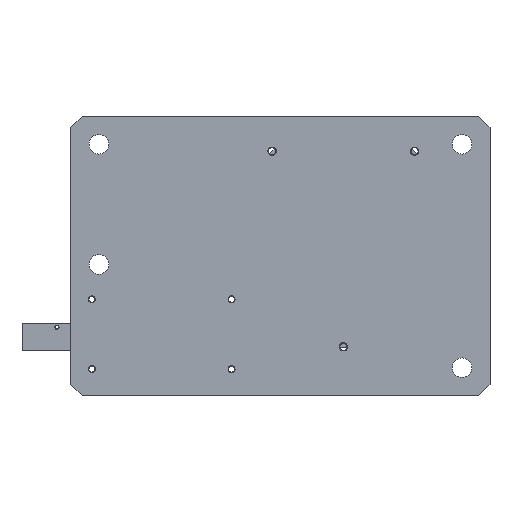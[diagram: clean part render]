
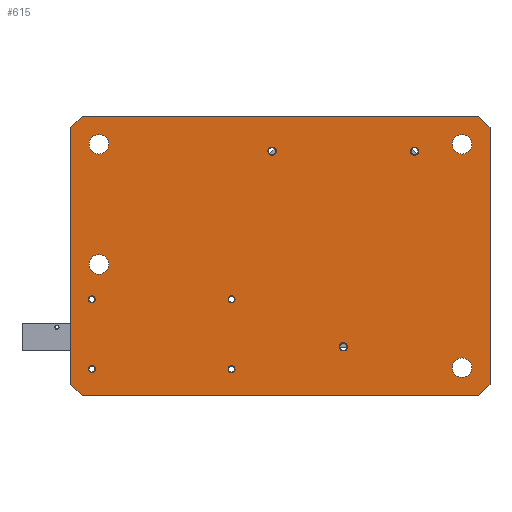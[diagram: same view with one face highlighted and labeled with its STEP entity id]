
A CAD part, front view. The second image highlights one B-rep face of the part: STEP entity #615.
In plain terms, the highlighted planar face has unit normal (0, -1, 0).
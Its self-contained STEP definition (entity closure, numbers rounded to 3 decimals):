
#2=CARTESIAN_POINT('',(-35.,0.,-81.));
#3=DIRECTION('',(0.,1.,0.));
#4=DIRECTION('',(1.,0.,0.));
#5=AXIS2_PLACEMENT_3D('',#2,#3,#4);
#7=CARTESIAN_POINT('',(-35.,0.,-81.));
#8=DIRECTION('',(0.,1.,0.));
#9=DIRECTION('',(-1.,0.,0.));
#10=AXIS2_PLACEMENT_3D('',#7,#8,#9);
#12=CARTESIAN_POINT('',(-135.,0.,-81.));
#13=DIRECTION('',(0.,1.,0.));
#14=DIRECTION('',(1.,0.,0.));
#15=AXIS2_PLACEMENT_3D('',#12,#13,#14);
#17=CARTESIAN_POINT('',(-135.,0.,-81.));
#18=DIRECTION('',(0.,1.,0.));
#19=DIRECTION('',(-1.,0.,0.));
#20=AXIS2_PLACEMENT_3D('',#17,#18,#19);
#22=CARTESIAN_POINT('',(-35.,0.,-31.));
#23=DIRECTION('',(0.,1.,0.));
#24=DIRECTION('',(1.,0.,0.));
#25=AXIS2_PLACEMENT_3D('',#22,#23,#24);
#27=CARTESIAN_POINT('',(-35.,0.,-31.));
#28=DIRECTION('',(0.,1.,0.));
#29=DIRECTION('',(-1.,0.,0.));
#30=AXIS2_PLACEMENT_3D('',#27,#28,#29);
#32=CARTESIAN_POINT('',(-135.,0.,-31.));
#33=DIRECTION('',(0.,1.,0.));
#34=DIRECTION('',(1.,0.,0.));
#35=AXIS2_PLACEMENT_3D('',#32,#33,#34);
#37=CARTESIAN_POINT('',(-135.,0.,-31.));
#38=DIRECTION('',(0.,1.,0.));
#39=DIRECTION('',(-1.,0.,0.));
#40=AXIS2_PLACEMENT_3D('',#37,#38,#39);
#42=CARTESIAN_POINT('',(45.,0.,-65.));
#43=DIRECTION('',(0.,1.,0.));
#44=DIRECTION('',(1.,0.,0.));
#45=AXIS2_PLACEMENT_3D('',#42,#43,#44);
#47=CARTESIAN_POINT('',(45.,0.,-65.));
#48=DIRECTION('',(0.,1.,0.));
#49=DIRECTION('',(-1.,0.,0.));
#50=AXIS2_PLACEMENT_3D('',#47,#48,#49);
#52=CARTESIAN_POINT('',(-6.,0.,75.));
#53=DIRECTION('',(0.,1.,0.));
#54=DIRECTION('',(1.,0.,0.));
#55=AXIS2_PLACEMENT_3D('',#52,#53,#54);
#57=CARTESIAN_POINT('',(-6.,0.,75.));
#58=DIRECTION('',(0.,1.,0.));
#59=DIRECTION('',(-1.,0.,0.));
#60=AXIS2_PLACEMENT_3D('',#57,#58,#59);
#62=CARTESIAN_POINT('',(96.,0.,75.));
#63=DIRECTION('',(0.,1.,0.));
#64=DIRECTION('',(1.,0.,0.));
#65=AXIS2_PLACEMENT_3D('',#62,#63,#64);
#67=CARTESIAN_POINT('',(96.,0.,75.));
#68=DIRECTION('',(0.,1.,0.));
#69=DIRECTION('',(-1.,0.,0.));
#70=AXIS2_PLACEMENT_3D('',#67,#68,#69);
#72=CARTESIAN_POINT('',(-130.,0.,80.));
#73=DIRECTION('',(0.,1.,0.));
#74=DIRECTION('',(1.,0.,0.));
#75=AXIS2_PLACEMENT_3D('',#72,#73,#74);
#77=CARTESIAN_POINT('',(-130.,0.,80.));
#78=DIRECTION('',(0.,1.,0.));
#79=DIRECTION('',(-1.,0.,0.));
#80=AXIS2_PLACEMENT_3D('',#77,#78,#79);
#82=CARTESIAN_POINT('',(-130.,0.,-6.));
#83=DIRECTION('',(0.,1.,0.));
#84=DIRECTION('',(1.,0.,0.));
#85=AXIS2_PLACEMENT_3D('',#82,#83,#84);
#87=CARTESIAN_POINT('',(-130.,0.,-6.));
#88=DIRECTION('',(0.,1.,0.));
#89=DIRECTION('',(-1.,0.,0.));
#90=AXIS2_PLACEMENT_3D('',#87,#88,#89);
#92=CARTESIAN_POINT('',(130.,0.,-80.));
#93=DIRECTION('',(0.,1.,0.));
#94=DIRECTION('',(1.,0.,0.));
#95=AXIS2_PLACEMENT_3D('',#92,#93,#94);
#97=CARTESIAN_POINT('',(130.,0.,-80.));
#98=DIRECTION('',(0.,1.,0.));
#99=DIRECTION('',(-1.,0.,0.));
#100=AXIS2_PLACEMENT_3D('',#97,#98,#99);
#102=CARTESIAN_POINT('',(130.,0.,80.));
#103=DIRECTION('',(0.,1.,0.));
#104=DIRECTION('',(1.,0.,0.));
#105=AXIS2_PLACEMENT_3D('',#102,#103,#104);
#107=CARTESIAN_POINT('',(130.,0.,80.));
#108=DIRECTION('',(0.,1.,0.));
#109=DIRECTION('',(-1.,0.,0.));
#110=AXIS2_PLACEMENT_3D('',#107,#108,#109);
#112=DIRECTION('',(-0.707,0.,-0.707));
#113=VECTOR('',#112,11.314);
#114=CARTESIAN_POINT('',(-142.,0.,100.));
#115=LINE('',#114,#113);
#116=DIRECTION('',(1.,0.,0.));
#117=VECTOR('',#116,284.);
#118=CARTESIAN_POINT('',(-142.,0.,100.));
#119=LINE('',#118,#117);
#120=DIRECTION('',(-0.707,0.,0.707));
#121=VECTOR('',#120,11.314);
#122=CARTESIAN_POINT('',(150.,0.,92.));
#123=LINE('',#122,#121);
#124=DIRECTION('',(0.,0.,-1.));
#125=VECTOR('',#124,184.);
#126=CARTESIAN_POINT('',(150.,0.,92.));
#127=LINE('',#126,#125);
#128=DIRECTION('',(0.707,0.,0.707));
#129=VECTOR('',#128,11.314);
#130=CARTESIAN_POINT('',(142.,0.,-100.));
#131=LINE('',#130,#129);
#132=DIRECTION('',(-1.,0.,0.));
#133=VECTOR('',#132,284.);
#134=CARTESIAN_POINT('',(142.,0.,-100.));
#135=LINE('',#134,#133);
#136=DIRECTION('',(0.707,0.,-0.707));
#137=VECTOR('',#136,11.314);
#138=CARTESIAN_POINT('',(-150.,0.,-92.));
#139=LINE('',#138,#137);
#140=DIRECTION('',(0.,0.,1.));
#141=VECTOR('',#140,184.);
#142=CARTESIAN_POINT('',(-150.,0.,-92.));
#143=LINE('',#142,#141);
#406=CARTESIAN_POINT('',(-142.,0.,100.));
#407=CARTESIAN_POINT('',(-150.,0.,92.));
#408=VERTEX_POINT('',#406);
#409=VERTEX_POINT('',#407);
#414=CARTESIAN_POINT('',(150.,0.,92.));
#415=CARTESIAN_POINT('',(142.,0.,100.));
#416=VERTEX_POINT('',#414);
#417=VERTEX_POINT('',#415);
#422=CARTESIAN_POINT('',(142.,0.,-100.));
#423=CARTESIAN_POINT('',(150.,0.,-92.));
#424=VERTEX_POINT('',#422);
#425=VERTEX_POINT('',#423);
#430=CARTESIAN_POINT('',(-150.,0.,-92.));
#431=CARTESIAN_POINT('',(-142.,0.,-100.));
#432=VERTEX_POINT('',#430);
#433=VERTEX_POINT('',#431);
#438=CARTESIAN_POINT('',(-32.85,0.,-81.));
#439=CARTESIAN_POINT('',(-37.15,0.,-81.));
#440=VERTEX_POINT('',#438);
#441=VERTEX_POINT('',#439);
#442=CARTESIAN_POINT('',(-132.85,0.,-81.));
#443=CARTESIAN_POINT('',(-137.15,0.,-81.));
#444=VERTEX_POINT('',#442);
#445=VERTEX_POINT('',#443);
#446=CARTESIAN_POINT('',(-32.85,0.,-31.));
#447=CARTESIAN_POINT('',(-37.15,0.,-31.));
#448=VERTEX_POINT('',#446);
#449=VERTEX_POINT('',#447);
#450=CARTESIAN_POINT('',(-132.85,0.,-31.));
#451=CARTESIAN_POINT('',(-137.15,0.,-31.));
#452=VERTEX_POINT('',#450);
#453=VERTEX_POINT('',#451);
#470=CARTESIAN_POINT('',(47.55,0.,-65.));
#471=CARTESIAN_POINT('',(42.45,0.,-65.));
#472=VERTEX_POINT('',#470);
#473=VERTEX_POINT('',#471);
#474=CARTESIAN_POINT('',(-3.45,0.,75.));
#475=CARTESIAN_POINT('',(-8.55,0.,75.));
#476=VERTEX_POINT('',#474);
#477=VERTEX_POINT('',#475);
#478=CARTESIAN_POINT('',(98.55,0.,75.));
#479=CARTESIAN_POINT('',(93.45,0.,75.));
#480=VERTEX_POINT('',#478);
#481=VERTEX_POINT('',#479);
#494=CARTESIAN_POINT('',(-123.,0.,80.));
#495=CARTESIAN_POINT('',(-137.,0.,80.));
#496=VERTEX_POINT('',#494);
#497=VERTEX_POINT('',#495);
#498=CARTESIAN_POINT('',(-123.,0.,-6.));
#499=CARTESIAN_POINT('',(-137.,0.,-6.));
#500=VERTEX_POINT('',#498);
#501=VERTEX_POINT('',#499);
#502=CARTESIAN_POINT('',(137.,0.,-80.));
#503=CARTESIAN_POINT('',(123.,0.,-80.));
#504=VERTEX_POINT('',#502);
#505=VERTEX_POINT('',#503);
#506=CARTESIAN_POINT('',(137.,0.,80.));
#507=CARTESIAN_POINT('',(123.,0.,80.));
#508=VERTEX_POINT('',#506);
#509=VERTEX_POINT('',#507);
#526=CARTESIAN_POINT('',(0.,0.,0.));
#527=DIRECTION('',(0.,1.,0.));
#528=DIRECTION('',(1.,0.,0.));
#529=AXIS2_PLACEMENT_3D('',#526,#527,#528);
#530=PLANE('',#529);
#532=ORIENTED_EDGE('',*,*,#531,.F.);
#534=ORIENTED_EDGE('',*,*,#533,.T.);
#536=ORIENTED_EDGE('',*,*,#535,.F.);
#538=ORIENTED_EDGE('',*,*,#537,.T.);
#540=ORIENTED_EDGE('',*,*,#539,.F.);
#542=ORIENTED_EDGE('',*,*,#541,.T.);
#544=ORIENTED_EDGE('',*,*,#543,.F.);
#546=ORIENTED_EDGE('',*,*,#545,.T.);
#547=EDGE_LOOP('',(#532,#534,#536,#538,#540,#542,#544,#546));
#548=FACE_OUTER_BOUND('',#547,.F.);
#550=ORIENTED_EDGE('',*,*,#549,.F.);
#552=ORIENTED_EDGE('',*,*,#551,.F.);
#553=EDGE_LOOP('',(#550,#552));
#554=FACE_BOUND('',#553,.F.);
#556=ORIENTED_EDGE('',*,*,#555,.F.);
#558=ORIENTED_EDGE('',*,*,#557,.F.);
#559=EDGE_LOOP('',(#556,#558));
#560=FACE_BOUND('',#559,.F.);
#562=ORIENTED_EDGE('',*,*,#561,.F.);
#564=ORIENTED_EDGE('',*,*,#563,.F.);
#565=EDGE_LOOP('',(#562,#564));
#566=FACE_BOUND('',#565,.F.);
#568=ORIENTED_EDGE('',*,*,#567,.F.);
#570=ORIENTED_EDGE('',*,*,#569,.F.);
#571=EDGE_LOOP('',(#568,#570));
#572=FACE_BOUND('',#571,.F.);
#574=ORIENTED_EDGE('',*,*,#573,.F.);
#576=ORIENTED_EDGE('',*,*,#575,.F.);
#577=EDGE_LOOP('',(#574,#576));
#578=FACE_BOUND('',#577,.F.);
#580=ORIENTED_EDGE('',*,*,#579,.F.);
#582=ORIENTED_EDGE('',*,*,#581,.F.);
#583=EDGE_LOOP('',(#580,#582));
#584=FACE_BOUND('',#583,.F.);
#586=ORIENTED_EDGE('',*,*,#585,.F.);
#588=ORIENTED_EDGE('',*,*,#587,.F.);
#589=EDGE_LOOP('',(#586,#588));
#590=FACE_BOUND('',#589,.F.);
#592=ORIENTED_EDGE('',*,*,#591,.F.);
#594=ORIENTED_EDGE('',*,*,#593,.F.);
#595=EDGE_LOOP('',(#592,#594));
#596=FACE_BOUND('',#595,.F.);
#598=ORIENTED_EDGE('',*,*,#597,.F.);
#600=ORIENTED_EDGE('',*,*,#599,.F.);
#601=EDGE_LOOP('',(#598,#600));
#602=FACE_BOUND('',#601,.F.);
#604=ORIENTED_EDGE('',*,*,#603,.F.);
#606=ORIENTED_EDGE('',*,*,#605,.F.);
#607=EDGE_LOOP('',(#604,#606));
#608=FACE_BOUND('',#607,.F.);
#610=ORIENTED_EDGE('',*,*,#609,.F.);
#612=ORIENTED_EDGE('',*,*,#611,.F.);
#613=EDGE_LOOP('',(#610,#612));
#614=FACE_BOUND('',#613,.F.);
#615=ADVANCED_FACE('',(#548,#554,#560,#566,#572,#578,#584,#590,#596,#602,#608,
#614),#530,.F.);
#6=CIRCLE('',#5,2.15);
#11=CIRCLE('',#10,2.15);
#16=CIRCLE('',#15,2.15);
#21=CIRCLE('',#20,2.15);
#26=CIRCLE('',#25,2.15);
#31=CIRCLE('',#30,2.15);
#36=CIRCLE('',#35,2.15);
#41=CIRCLE('',#40,2.15);
#46=CIRCLE('',#45,2.55);
#51=CIRCLE('',#50,2.55);
#56=CIRCLE('',#55,2.55);
#61=CIRCLE('',#60,2.55);
#66=CIRCLE('',#65,2.55);
#71=CIRCLE('',#70,2.55);
#76=CIRCLE('',#75,7.);
#81=CIRCLE('',#80,7.);
#86=CIRCLE('',#85,7.);
#91=CIRCLE('',#90,7.);
#96=CIRCLE('',#95,7.);
#101=CIRCLE('',#100,7.);
#106=CIRCLE('',#105,7.);
#111=CIRCLE('',#110,7.);
#531=EDGE_CURVE('',#408,#409,#115,.T.);
#533=EDGE_CURVE('',#408,#417,#119,.T.);
#535=EDGE_CURVE('',#416,#417,#123,.T.);
#537=EDGE_CURVE('',#416,#425,#127,.T.);
#539=EDGE_CURVE('',#424,#425,#131,.T.);
#541=EDGE_CURVE('',#424,#433,#135,.T.);
#543=EDGE_CURVE('',#432,#433,#139,.T.);
#545=EDGE_CURVE('',#432,#409,#143,.T.);
#549=EDGE_CURVE('',#444,#445,#16,.T.);
#551=EDGE_CURVE('',#445,#444,#21,.T.);
#555=EDGE_CURVE('',#448,#449,#26,.T.);
#557=EDGE_CURVE('',#449,#448,#31,.T.);
#561=EDGE_CURVE('',#452,#453,#36,.T.);
#563=EDGE_CURVE('',#453,#452,#41,.T.);
#567=EDGE_CURVE('',#472,#473,#46,.T.);
#569=EDGE_CURVE('',#473,#472,#51,.T.);
#573=EDGE_CURVE('',#476,#477,#56,.T.);
#575=EDGE_CURVE('',#477,#476,#61,.T.);
#579=EDGE_CURVE('',#480,#481,#66,.T.);
#581=EDGE_CURVE('',#481,#480,#71,.T.);
#585=EDGE_CURVE('',#496,#497,#76,.T.);
#587=EDGE_CURVE('',#497,#496,#81,.T.);
#591=EDGE_CURVE('',#500,#501,#86,.T.);
#593=EDGE_CURVE('',#501,#500,#91,.T.);
#597=EDGE_CURVE('',#504,#505,#96,.T.);
#599=EDGE_CURVE('',#505,#504,#101,.T.);
#603=EDGE_CURVE('',#508,#509,#106,.T.);
#605=EDGE_CURVE('',#509,#508,#111,.T.);
#609=EDGE_CURVE('',#440,#441,#6,.T.);
#611=EDGE_CURVE('',#441,#440,#11,.T.);
